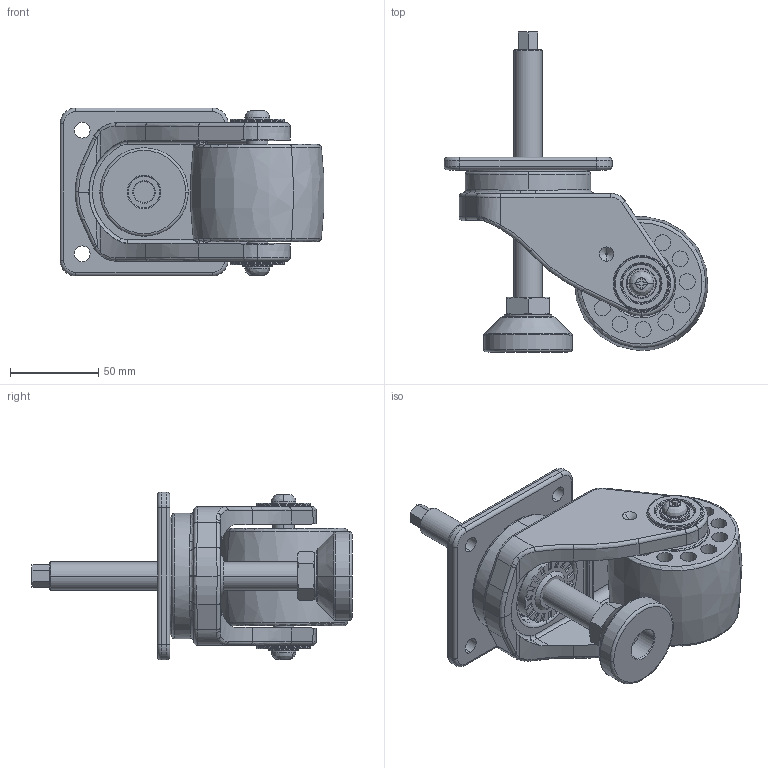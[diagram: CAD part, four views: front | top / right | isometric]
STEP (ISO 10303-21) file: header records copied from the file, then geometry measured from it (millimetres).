
FILE_DESCRIPTION(/* description */ (''),/* implementation_level */ '2;1');
FILE_NAME(/* name */ 'C02-1-1000F-1.stp',/* time_stamp */ '2024-08-05T19:03:00+08:00',/* author */ (''),/* organization */ (''),/* preprocessor_version */ 'ST-DEVELOPER v16.7',/* originating_system */ 'SIEMENS PLM Software NX 12.0',/* authorisation */ '');
FILE_SCHEMA (('AP203_CONFIGURATION_CONTROLLED_3D_DESIGN_OF_MECHANICAL_PARTS_AND_ASSEMBLIES_MIM_LF { 1 0 10303 403 2 1 2}'));
Length unit declared in the file: millimetre
Products named in the file (1): ASUS1E14541Fqrdx
Bounding box: 149.27 x 181 x 95 mm (x, y, z)
Volume: 363130.8 mm3; surface area: 126416.1 mm2
Topology: 31 solids, 32 shells, 872 faces, 2179 edges, 1292 vertices
Faces by surface type: plane 309, cylinder 192, torus 164, sphere 92, cone 63, bspline 52
Entity records: 27577 total; most frequent: CARTESIAN_POINT 7470, DIRECTION 4294, ORIENTED_EDGE 4076, EDGE_CURVE 2041, AXIS2_PLACEMENT_3D 1817, VERTEX_POINT 1246, CIRCLE 990, EDGE_LOOP 958
